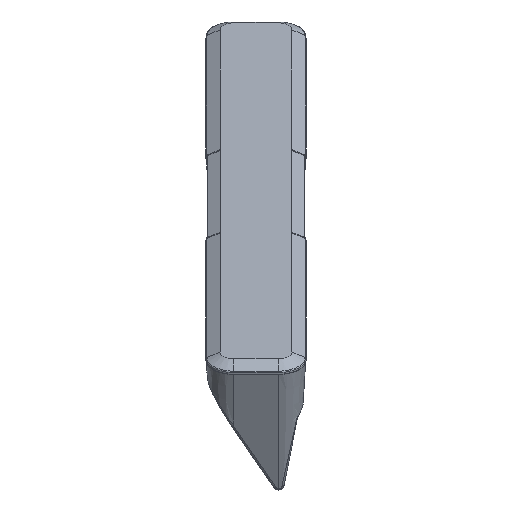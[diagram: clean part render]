
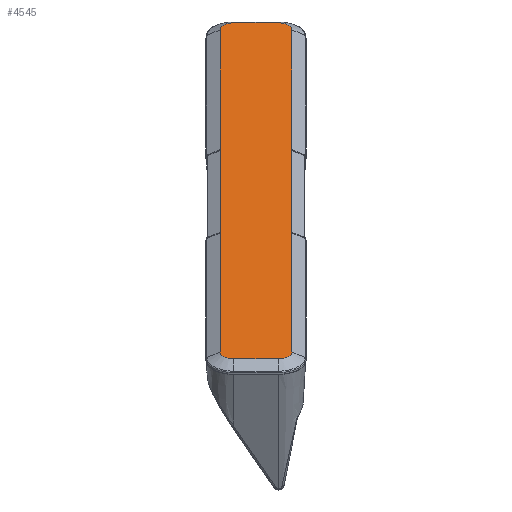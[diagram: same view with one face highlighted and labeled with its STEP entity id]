
A CAD part, top view. The second image highlights one B-rep face of the part: STEP entity #4545.
In plain terms, the highlighted planar face has unit normal (0, 0.866, 0.5) as drawn and (0, 0, -1) by its records, which use the part's own axes.
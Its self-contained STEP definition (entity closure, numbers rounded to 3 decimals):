
#2755=FACE_OUTER_BOUND('',#10785,.T.);
#4545=ADVANCED_FACE('LENS02',(#2755),#5412,.T.);
#5412=PLANE('',#27919);
#6486=LINE('',#47245,#7362);
#6487=LINE('',#47248,#7363);
#6488=LINE('',#47252,#7364);
#6489=LINE('',#47256,#7365);
#6490=LINE('',#47258,#7366);
#6491=LINE('',#47260,#7367);
#6492=LINE('',#47264,#7368);
#6493=LINE('',#47268,#7369);
#7362=VECTOR('',#31862,1.);
#7363=VECTOR('',#31863,1.);
#7364=VECTOR('',#31866,1.);
#7365=VECTOR('',#31869,1.);
#7366=VECTOR('',#31870,1.);
#7367=VECTOR('',#31871,1.);
#7368=VECTOR('',#31874,1.);
#7369=VECTOR('',#31877,1.);
#10785=EDGE_LOOP('',(#16368,#16369,#16370,#16371,#16372,#16373,#16374,#16375,
#16376,#16377,#16378,#16379));
#16368=ORIENTED_EDGE('',*,*,#24115,.F.);
#16369=ORIENTED_EDGE('',*,*,#24116,.T.);
#16370=ORIENTED_EDGE('',*,*,#24117,.T.);
#16371=ORIENTED_EDGE('',*,*,#24118,.T.);
#16372=ORIENTED_EDGE('',*,*,#24119,.T.);
#16373=ORIENTED_EDGE('',*,*,#24120,.T.);
#16374=ORIENTED_EDGE('',*,*,#24121,.T.);
#16375=ORIENTED_EDGE('',*,*,#24122,.T.);
#16376=ORIENTED_EDGE('',*,*,#24123,.T.);
#16377=ORIENTED_EDGE('',*,*,#24124,.T.);
#16378=ORIENTED_EDGE('',*,*,#24125,.T.);
#16379=ORIENTED_EDGE('',*,*,#24126,.T.);
#20851=VERTEX_POINT('',#47246);
#20852=VERTEX_POINT('',#47247);
#20853=VERTEX_POINT('',#47249);
#20854=VERTEX_POINT('',#47251);
#20855=VERTEX_POINT('',#47253);
#20856=VERTEX_POINT('',#47255);
#20857=VERTEX_POINT('',#47257);
#20858=VERTEX_POINT('',#47259);
#20859=VERTEX_POINT('',#47261);
#20860=VERTEX_POINT('',#47263);
#20861=VERTEX_POINT('',#47265);
#20862=VERTEX_POINT('',#47267);
#24115=EDGE_CURVE('',#20851,#20852,#6486,.T.);
#24116=EDGE_CURVE('',#20851,#20853,#6487,.T.);
#24117=EDGE_CURVE('',#20853,#20854,#26345,.T.);
#24118=EDGE_CURVE('',#20854,#20855,#6488,.T.);
#24119=EDGE_CURVE('',#20855,#20856,#26346,.T.);
#24120=EDGE_CURVE('',#20856,#20857,#6489,.T.);
#24121=EDGE_CURVE('',#20857,#20858,#6490,.T.);
#24122=EDGE_CURVE('',#20858,#20859,#6491,.T.);
#24123=EDGE_CURVE('',#20859,#20860,#26347,.T.);
#24124=EDGE_CURVE('',#20860,#20861,#6492,.T.);
#24125=EDGE_CURVE('',#20861,#20862,#26348,.T.);
#24126=EDGE_CURVE('',#20862,#20852,#6493,.T.);
#26345=CIRCLE('',#27915,5.);
#26346=CIRCLE('',#27916,5.);
#26347=CIRCLE('',#27917,5.);
#26348=CIRCLE('',#27918,5.);
#27915=AXIS2_PLACEMENT_3D('',#47250,#31864,#31865);
#27916=AXIS2_PLACEMENT_3D('',#47254,#31867,#31868);
#27917=AXIS2_PLACEMENT_3D('',#47262,#31872,#31873);
#27918=AXIS2_PLACEMENT_3D('',#47266,#31875,#31876);
#27919=AXIS2_PLACEMENT_3D('',#47269,#31878,#31879);
#31862=DIRECTION('',(1.,0.,0.));
#31863=DIRECTION('',(-1.,0.,0.));
#31864=DIRECTION('',(0.,0.,-1.));
#31865=DIRECTION('',(-1.,0.,0.));
#31866=DIRECTION('',(0.,1.,0.));
#31867=DIRECTION('',(0.,0.,-1.));
#31868=DIRECTION('',(-1.,0.,0.));
#31869=DIRECTION('',(1.,0.,0.));
#31870=DIRECTION('',(1.,0.,0.));
#31871=DIRECTION('',(1.,0.,0.));
#31872=DIRECTION('',(0.,0.,-1.));
#31873=DIRECTION('',(-1.,0.,0.));
#31874=DIRECTION('',(0.,-1.,0.));
#31875=DIRECTION('',(0.,0.,-1.));
#31876=DIRECTION('',(-1.,0.,0.));
#31877=DIRECTION('',(-1.,0.,0.));
#31878=DIRECTION('',(0.,0.,-1.));
#31879=DIRECTION('',(-1.,0.,0.));
#47245=CARTESIAN_POINT('',(117.,-13.,-3.5));
#47246=CARTESIAN_POINT('',(-30.028,-13.,-3.5));
#47247=CARTESIAN_POINT('',(30.028,-13.,-3.5));
#47248=CARTESIAN_POINT('',(117.,-13.,-3.5));
#47249=CARTESIAN_POINT('',(-117.,-13.,-3.5));
#47250=CARTESIAN_POINT('',(-117.,-8.,-3.5));
#47251=CARTESIAN_POINT('',(-122.,-8.,-3.5));
#47252=CARTESIAN_POINT('',(-122.,-8.,-3.5));
#47253=CARTESIAN_POINT('',(-122.,8.,-3.5));
#47254=CARTESIAN_POINT('',(-117.,8.,-3.5));
#47255=CARTESIAN_POINT('',(-117.,13.,-3.5));
#47256=CARTESIAN_POINT('',(117.,13.,-3.5));
#47257=CARTESIAN_POINT('',(-30.028,13.,-3.5));
#47258=CARTESIAN_POINT('',(117.,13.,-3.5));
#47259=CARTESIAN_POINT('',(30.028,13.,-3.5));
#47260=CARTESIAN_POINT('',(117.,13.,-3.5));
#47261=CARTESIAN_POINT('',(117.,13.,-3.5));
#47262=CARTESIAN_POINT('',(117.,8.,-3.5));
#47263=CARTESIAN_POINT('',(122.,8.,-3.5));
#47264=CARTESIAN_POINT('',(122.,-8.,-3.5));
#47265=CARTESIAN_POINT('',(122.,-8.,-3.5));
#47266=CARTESIAN_POINT('',(117.,-8.,-3.5));
#47267=CARTESIAN_POINT('',(117.,-13.,-3.5));
#47268=CARTESIAN_POINT('',(117.,-13.,-3.5));
#47269=CARTESIAN_POINT('',(117.,-8.,-3.5));
